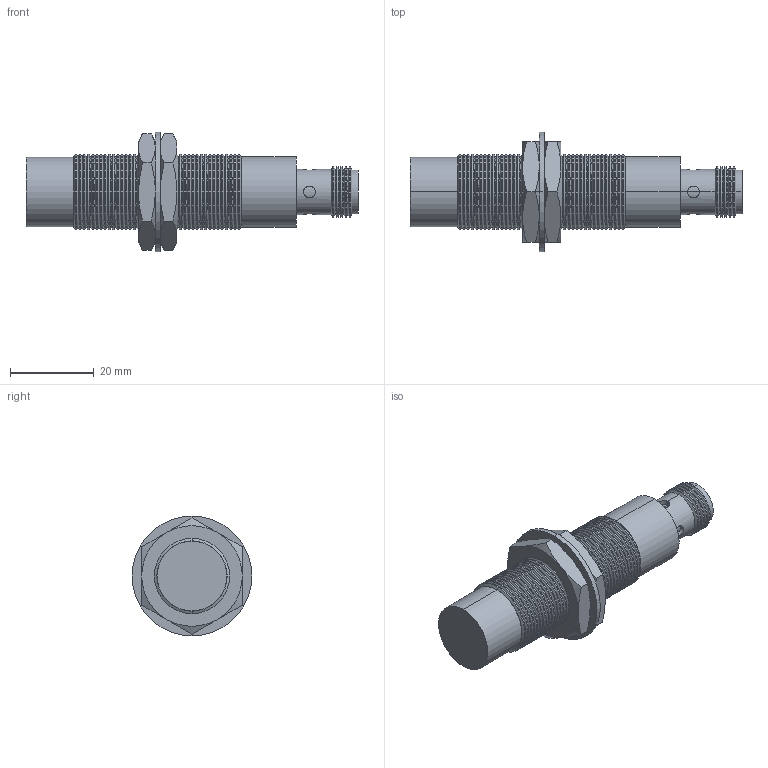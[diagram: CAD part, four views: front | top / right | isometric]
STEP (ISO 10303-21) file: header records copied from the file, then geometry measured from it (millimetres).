
FILE_DESCRIPTION (( 'STEP AP203' ), '1' );
FILE_NAME ('90-29417-072.STEP', '2016-04-27T00:38:55', ( 'Sam' ), ( 'Spade' ), 'SwSTEP 2.0', 'SolidWorks 2002296', '' );
FILE_SCHEMA (( 'CONFIG_CONTROL_DESIGN' ));
Length unit declared in the file: inch
Products named in the file (20): 90-29417-072; Imported17; Imported18; Imported19; Imported20; Imported22; Imported21; Imported23; Imported24; Imported25; Imported26; Imported27; Imported28; Imported12; Imported16; Imported15; Imported14; Imported13; Imported30; Imported29
Assembly tree (19 placements, depth 2):
  90-29417-072
    Imported21
    Imported13
    Imported22
    Imported28
    Imported25
    Imported26
    Imported12
    Imported29
    Imported23
    Imported14
    Imported18
    Imported27
    Imported20
    Imported19
    Imported24
    Imported15
    Imported17
    Imported16
    Imported30
Bounding box: 79.25 x 28.57 x 28.57 mm (x, y, z)
Volume: 19138.4 mm3; surface area: 14210.8 mm2
Topology: 19 solids, 19 shells, 523 faces, 1137 edges, 644 vertices
Faces by surface type: cone 240, cylinder 178, plane 97, bspline 8
Entity records: 16797 total; most frequent: CARTESIAN_POINT 3054, DIRECTION 2659, ORIENTED_EDGE 2258, EDGE_CURVE 1129, AXIS2_PLACEMENT_3D 1057, VERTEX_POINT 644, EDGE_LOOP 547, LINE 545
